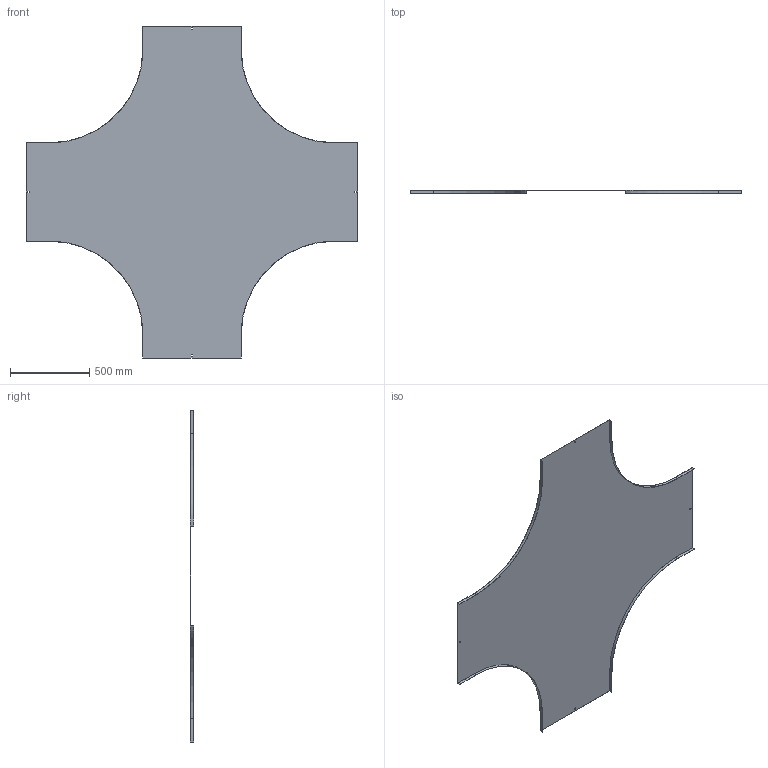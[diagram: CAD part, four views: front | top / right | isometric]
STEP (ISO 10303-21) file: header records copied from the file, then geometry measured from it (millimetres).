
FILE_DESCRIPTION (( 'STEP AP214' ), '1' );
FILE_NAME ('17N6P600.step', '2025-02-21T13:57:44', ( '' ), ( '' ), 'SwSTEP 2.0', 'SolidWorks 2023', '' );
FILE_SCHEMA (( 'AUTOMOTIVE_DESIGN' ));
Length unit declared in the file: millimetre
Products named in the file (1): 17N6P600
Bounding box: 2100 x 20 x 2100 mm (x, y, z)
Volume: 3924337.4 mm3; surface area: 5243942.4 mm2
Topology: 1 solids, 1 shells, 50 faces, 144 edges, 96 vertices
Faces by surface type: plane 42, cylinder 8
Entity records: 1663 total; most frequent: CARTESIAN_POINT 291, ORIENTED_EDGE 288, DIRECTION 262, EDGE_CURVE 144, VECTOR 128, LINE 128, VERTEX_POINT 96, AXIS2_PLACEMENT_3D 67
